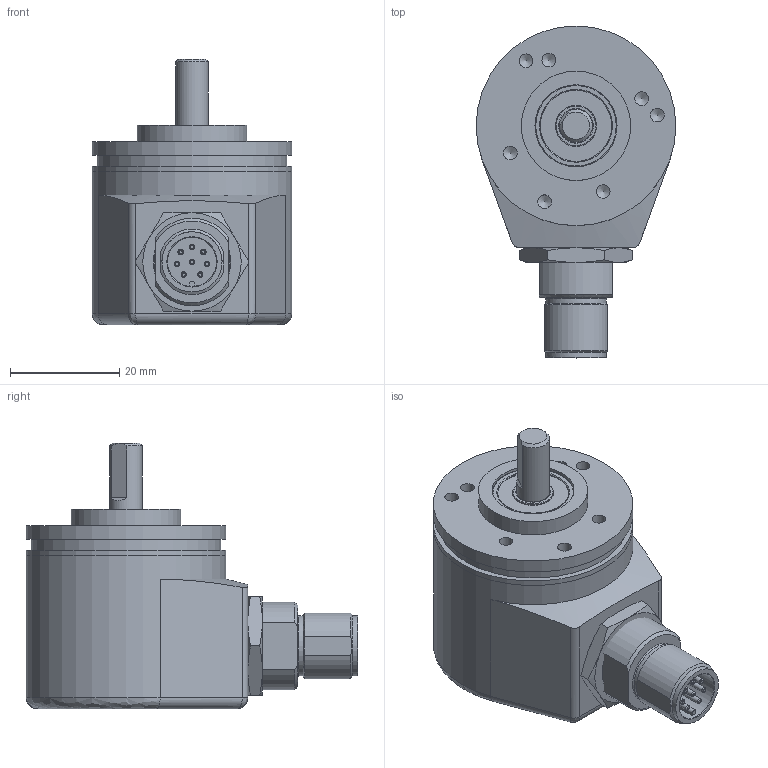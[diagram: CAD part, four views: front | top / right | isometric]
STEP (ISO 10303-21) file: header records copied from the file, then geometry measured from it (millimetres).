
FILE_DESCRIPTION (( 'STEP AP203' ), '1' );
FILE_NAME ('8.3610.33X4.XXXX.STEP', '2013-04-24T14:53:02', ( 'Hodot' ), ( '' ), 'SwSTEP 2.0', 'SolidWorks 2012', '' );
FILE_SCHEMA (( 'CONFIG_CONTROL_DESIGN' ));
Length unit declared in the file: millimetre
Products named in the file (1): 8.3610.33X4.XXXX
Bounding box: 36.5 x 60.63 x 48.55 mm (x, y, z)
Volume: 25572.8 mm3; surface area: 18108.5 mm2
Topology: 6 solids, 6 shells, 197 faces, 455 edges, 297 vertices
Faces by surface type: plane 68, cylinder 66, cone 41, bspline 22
Full cylindrical faces by diameter (mm): 1 x8, 1.25 x3, 2.05 x1, 2.5 x7, 4.02 x1, 6 x2, 7.5 x2, 8.5 x1, 9 x1, 11 x2, 12.5 x1, 13 x2, 13.8 x1, 14.7 x1, 15 x3, 17 x1, 18 x1, 20 x1, 32.3 x1, 34.4 x1, 34.5 x1, 34.6 x2, 36.5 x3
Entity records: 6640 total; most frequent: CARTESIAN_POINT 2842, DIRECTION 731, ORIENTED_EDGE 670, EDGE_CURVE 335, AXIS2_PLACEMENT_3D 327, EDGE_LOOP 318, VERTEX_POINT 263, FACE_OUTER_BOUND 261
